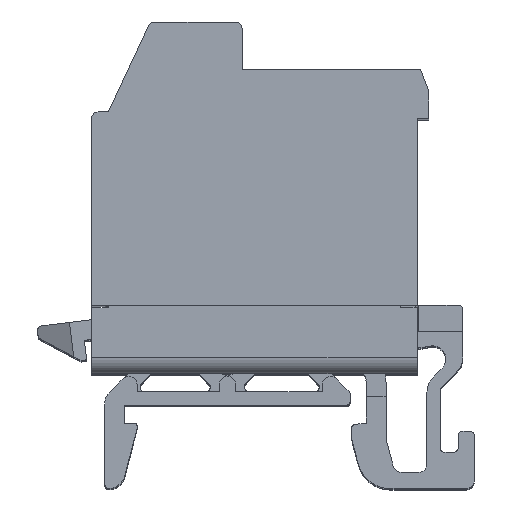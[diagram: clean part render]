
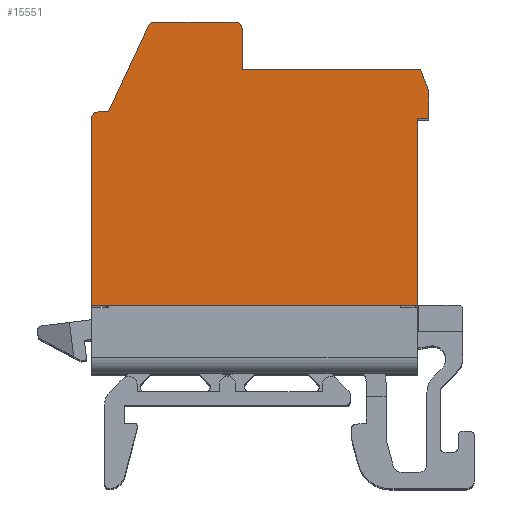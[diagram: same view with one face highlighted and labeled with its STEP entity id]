
A CAD part, top view. The second image highlights one B-rep face of the part: STEP entity #15551.
In plain terms, the highlighted planar face has unit normal (0, 0, 1).
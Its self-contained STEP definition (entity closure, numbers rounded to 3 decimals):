
#15551=ADVANCED_FACE('',(#30832),#30834,.T.);
#30832=FACE_BOUND('',#30833,.T.);
#30833=EDGE_LOOP('',(#42752,#42753,#42754,#42755,#42756,#42757,#42758,#42759,#42760,
#42761,#42762,#42763,#42764,#42765));
#30834=PLANE('',#30835);
#30835=AXIS2_PLACEMENT_3D('',#30836,#30837,#30838);
#30836=CARTESIAN_POINT('',(-25.427,-24.75,3.3));
#30837=DIRECTION('',(0.,0.,1.));
#30838=DIRECTION('',(1.,0.,0.));
#42752=ORIENTED_EDGE('',*,*,#49712,.T.);
#42753=ORIENTED_EDGE('',*,*,#49715,.T.);
#42754=ORIENTED_EDGE('',*,*,#47833,.T.);
#42755=ORIENTED_EDGE('',*,*,#49701,.T.);
#42756=ORIENTED_EDGE('',*,*,#49704,.T.);
#42757=ORIENTED_EDGE('',*,*,#49707,.T.);
#42758=ORIENTED_EDGE('',*,*,#49710,.T.);
#42759=ORIENTED_EDGE('',*,*,#47221,.T.);
#42760=ORIENTED_EDGE('',*,*,#49731,.T.);
#42761=ORIENTED_EDGE('',*,*,#47329,.T.);
#42762=ORIENTED_EDGE('',*,*,#51681,.T.);
#42763=ORIENTED_EDGE('',*,*,#51702,.T.);
#42764=ORIENTED_EDGE('',*,*,#51721,.T.);
#42765=ORIENTED_EDGE('',*,*,#46833,.T.);
#46833=EDGE_CURVE('',#52594,#52592,#52595,.T.);
#47221=EDGE_CURVE('',#53269,#53270,#53271,.T.);
#47329=EDGE_CURVE('',#53482,#53483,#53484,.T.);
#47833=EDGE_CURVE('',#54359,#54360,#54361,.T.);
#49701=EDGE_CURVE('',#54360,#57444,#57445,.T.);
#49704=EDGE_CURVE('',#57444,#57449,#57450,.T.);
#49707=EDGE_CURVE('',#57449,#57454,#57455,.T.);
#49710=EDGE_CURVE('',#57454,#53269,#57459,.T.);
#49712=EDGE_CURVE('',#52592,#57461,#57462,.T.);
#49715=EDGE_CURVE('',#57461,#54359,#57466,.T.);
#49731=EDGE_CURVE('',#53270,#53482,#57494,.T.);
#51681=EDGE_CURVE('',#53483,#60706,#60707,.T.);
#51702=EDGE_CURVE('',#60706,#60746,#60748,.T.);
#51721=EDGE_CURVE('',#60746,#52594,#60773,.T.);
#52592=VERTEX_POINT('',#61984);
#52594=VERTEX_POINT('',#61988);
#52595=LINE('',#61989,#61990);
#53269=VERTEX_POINT('',#63705);
#53270=VERTEX_POINT('',#63706);
#53271=LINE('',#63707,#63708);
#53482=VERTEX_POINT('',#64134);
#53483=VERTEX_POINT('',#64135);
#53484=LINE('',#64136,#64137);
#54359=VERTEX_POINT('',#66368);
#54360=VERTEX_POINT('',#66369);
#54361=LINE('',#66370,#66371);
#57444=VERTEX_POINT('',#81361);
#57445=CIRCLE('',#81362,0.4);
#57449=VERTEX_POINT('',#81374);
#57450=LINE('',#81375,#81376);
#57454=VERTEX_POINT('',#81385);
#57455=LINE('',#81386,#81387);
#57459=CIRCLE('',#81396,0.4);
#57461=VERTEX_POINT('',#81404);
#57462=LINE('',#81405,#81406);
#57466=CIRCLE('',#81415,0.4);
#57494=LINE('',#81481,#81482);
#60706=VERTEX_POINT('',#89725);
#60707=LINE('',#89726,#89727);
#60746=VERTEX_POINT('',#89805);
#60748=LINE('',#89809,#89810);
#60773=LINE('',#89872,#89873);
#61984=CARTESIAN_POINT('',(-10.7,14.4,3.3));
#61988=CARTESIAN_POINT('',(0.2,14.4,3.3));
#61989=CARTESIAN_POINT('',(0.2,14.4,3.3));
#61990=VECTOR('',#61991,1.);
#61991=DIRECTION('',(-1.,0.,0.));
#63705=CARTESIAN_POINT('',(-19.9,11.4,3.3));
#63706=CARTESIAN_POINT('',(-19.9,0.,3.3));
#63707=CARTESIAN_POINT('',(-19.9,11.4,3.3));
#63708=VECTOR('',#63709,1.);
#63709=DIRECTION('',(0.,-1.,0.));
#64134=CARTESIAN_POINT('',(0.,0.,3.3));
#64135=CARTESIAN_POINT('',(0.,11.4,3.3));
#64136=CARTESIAN_POINT('',(0.,0.,3.3));
#64137=VECTOR('',#64138,1.);
#64138=DIRECTION('',(0.,1.,0.));
#66368=CARTESIAN_POINT('',(-11.1,17.3,3.3));
#66369=CARTESIAN_POINT('',(-16.045,17.3,3.3));
#66370=CARTESIAN_POINT('',(-11.1,17.3,3.3));
#66371=VECTOR('',#66372,1.);
#66372=DIRECTION('',(-1.,0.,0.));
#81361=CARTESIAN_POINT('',(-16.408,17.069,3.3));
#81362=AXIS2_PLACEMENT_3D('',#81363,#81364,#81365);
#81363=CARTESIAN_POINT('',(-16.045,16.9,3.3));
#81364=DIRECTION('',(0.,0.,1.));
#81365=DIRECTION('',(0.,1.,0.));
#81374=CARTESIAN_POINT('',(-18.865,11.8,3.3));
#81375=CARTESIAN_POINT('',(-16.408,17.069,3.3));
#81376=VECTOR('',#81377,1.);
#81377=DIRECTION('',(-0.423,-0.906,0.));
#81385=CARTESIAN_POINT('',(-19.5,11.8,3.3));
#81386=CARTESIAN_POINT('',(-18.865,11.8,3.3));
#81387=VECTOR('',#81388,1.);
#81388=DIRECTION('',(-1.,0.,0.));
#81396=AXIS2_PLACEMENT_3D('',#81397,#81398,#81399);
#81397=CARTESIAN_POINT('',(-19.5,11.4,3.3));
#81398=DIRECTION('',(0.,0.,1.));
#81399=DIRECTION('',(0.,1.,0.));
#81404=CARTESIAN_POINT('',(-10.7,16.9,3.3));
#81405=CARTESIAN_POINT('',(-10.7,14.4,3.3));
#81406=VECTOR('',#81407,1.);
#81407=DIRECTION('',(0.,1.,0.));
#81415=AXIS2_PLACEMENT_3D('',#81416,#81417,#81418);
#81416=CARTESIAN_POINT('',(-11.1,16.9,3.3));
#81417=DIRECTION('',(0.,0.,1.));
#81418=DIRECTION('',(1.,0.,0.));
#81481=CARTESIAN_POINT('',(-19.9,0.,3.3));
#81482=VECTOR('',#81483,1.);
#81483=DIRECTION('',(1.,0.,0.));
#89725=CARTESIAN_POINT('',(0.7,11.4,3.3));
#89726=CARTESIAN_POINT('',(0.,11.4,3.3));
#89727=VECTOR('',#89728,1.);
#89728=DIRECTION('',(1.,0.,0.));
#89805=CARTESIAN_POINT('',(0.7,13.1,3.3));
#89809=CARTESIAN_POINT('',(0.7,11.4,3.3));
#89810=VECTOR('',#89811,1.);
#89811=DIRECTION('',(0.,1.,0.));
#89872=CARTESIAN_POINT('',(0.7,13.1,3.3));
#89873=VECTOR('',#89874,1.);
#89874=DIRECTION('',(-0.359,0.933,0.));
